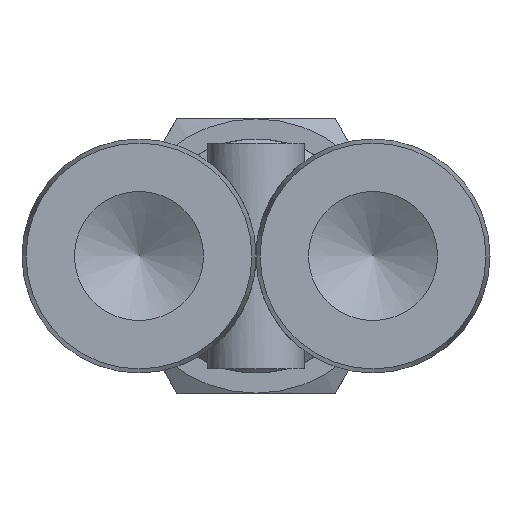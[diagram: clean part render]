
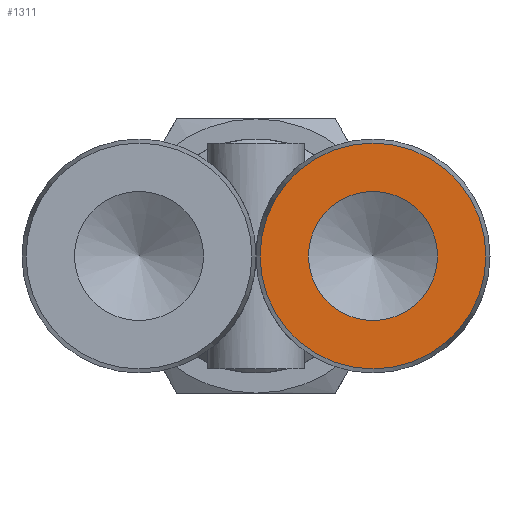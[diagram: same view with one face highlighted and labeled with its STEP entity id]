
A CAD part, front view. The second image highlights one B-rep face of the part: STEP entity #1311.
In plain terms, the highlighted planar face has unit normal (0, -1, 0).
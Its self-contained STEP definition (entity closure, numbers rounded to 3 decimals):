
#43=FACE_BOUND('',#366,.T.);
#59=PLANE('',#1481);
#278=FACE_OUTER_BOUND('',#365,.T.);
#365=EDGE_LOOP('',(#1030,#1031));
#366=EDGE_LOOP('',(#1032,#1033));
#475=CIRCLE('',#1454,7.);
#476=CIRCLE('',#1455,7.);
#490=CIRCLE('',#1477,4.);
#493=CIRCLE('',#1480,4.);
#594=VERTEX_POINT('',#2206);
#595=VERTEX_POINT('',#2207);
#611=VERTEX_POINT('',#2264);
#612=VERTEX_POINT('',#2265);
#748=EDGE_CURVE('',#594,#595,#475,.T.);
#749=EDGE_CURVE('',#595,#594,#476,.T.);
#771=EDGE_CURVE('',#611,#612,#490,.T.);
#775=EDGE_CURVE('',#612,#611,#493,.T.);
#1030=ORIENTED_EDGE('',*,*,#748,.T.);
#1031=ORIENTED_EDGE('',*,*,#749,.T.);
#1032=ORIENTED_EDGE('',*,*,#771,.F.);
#1033=ORIENTED_EDGE('',*,*,#775,.F.);
#1311=ADVANCED_FACE('',(#278,#43),#59,.T.);
#1454=AXIS2_PLACEMENT_3D('',#2208,#1727,#1728);
#1455=AXIS2_PLACEMENT_3D('',#2209,#1729,#1730);
#1477=AXIS2_PLACEMENT_3D('',#2266,#1779,#1780);
#1480=AXIS2_PLACEMENT_3D('',#2272,#1786,#1787);
#1481=AXIS2_PLACEMENT_3D('',#2273,#1788,#1789);
#1727=DIRECTION('center_axis',(0.,-1.,0.));
#1728=DIRECTION('ref_axis',(1.,0.,0.));
#1729=DIRECTION('center_axis',(0.,-1.,0.));
#1730=DIRECTION('ref_axis',(1.,0.,0.));
#1779=DIRECTION('center_axis',(0.,-1.,0.));
#1780=DIRECTION('ref_axis',(1.,0.,0.));
#1786=DIRECTION('center_axis',(0.,-1.,0.));
#1787=DIRECTION('ref_axis',(1.,0.,0.));
#1788=DIRECTION('center_axis',(0.,-1.,0.));
#1789=DIRECTION('ref_axis',(0.,0.,-1.));
#2206=CARTESIAN_POINT('',(14.25,-16.18,0.));
#2207=CARTESIAN_POINT('',(0.25,-16.18,0.));
#2208=CARTESIAN_POINT('Origin',(7.25,-16.18,0.));
#2209=CARTESIAN_POINT('Origin',(7.25,-16.18,0.));
#2264=CARTESIAN_POINT('',(11.25,-16.18,0.));
#2265=CARTESIAN_POINT('',(3.25,-16.18,0.));
#2266=CARTESIAN_POINT('Origin',(7.25,-16.18,0.));
#2272=CARTESIAN_POINT('Origin',(7.25,-16.18,0.));
#2273=CARTESIAN_POINT('Origin',(11.25,-16.18,0.));
